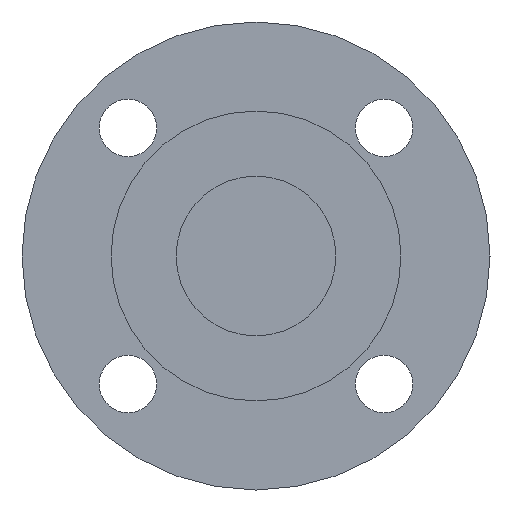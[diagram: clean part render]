
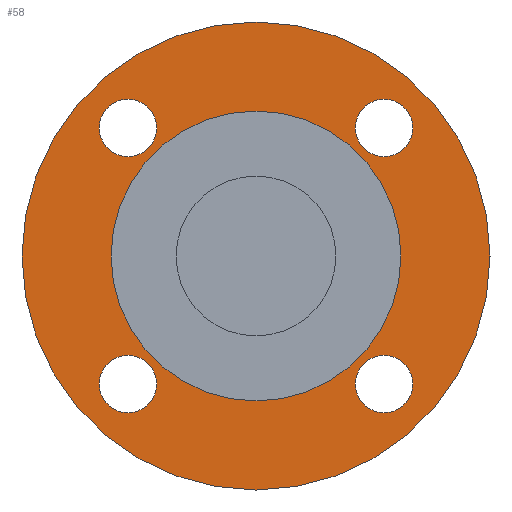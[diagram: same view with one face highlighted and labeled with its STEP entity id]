
A CAD part, left-side view. The second image highlights one B-rep face of the part: STEP entity #58.
In plain terms, the highlighted planar face has unit normal (-1, 0, 0).
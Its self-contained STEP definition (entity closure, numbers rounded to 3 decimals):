
#58=ADVANCED_FACE('',(#287,#288,#289,#290,#291,#292),#286,.T.);
#286=PLANE('',#825);
#287=FACE_OUTER_BOUND('',#826,.T.);
#288=FACE_BOUND('',#827,.T.);
#289=FACE_BOUND('',#828,.T.);
#290=FACE_BOUND('',#829,.T.);
#291=FACE_BOUND('',#830,.T.);
#292=FACE_BOUND('',#831,.T.);
#822=CARTESIAN_POINT('',(1.,-144.234,-165.));
#823=DIRECTION('',(-1.,0.,0.));
#824=DIRECTION('',(0.,0.,1.));
#825=AXIS2_PLACEMENT_3D('',#822,#823,#824);
#826=EDGE_LOOP('',(#1139,#1140));
#827=EDGE_LOOP('',(#1141,#1142));
#828=EDGE_LOOP('',(#1143,#1144));
#829=EDGE_LOOP('',(#1145,#1146));
#830=EDGE_LOOP('',(#1147,#1148));
#831=EDGE_LOOP('',(#1149,#1150));
#1139=ORIENTED_EDGE('',*,*,#1403,.T.);
#1140=ORIENTED_EDGE('',*,*,#1404,.T.);
#1141=ORIENTED_EDGE('',*,*,#1405,.F.);
#1142=ORIENTED_EDGE('',*,*,#1406,.F.);
#1143=ORIENTED_EDGE('',*,*,#1407,.F.);
#1144=ORIENTED_EDGE('',*,*,#1408,.F.);
#1145=ORIENTED_EDGE('',*,*,#1409,.F.);
#1146=ORIENTED_EDGE('',*,*,#1410,.F.);
#1147=ORIENTED_EDGE('',*,*,#1411,.F.);
#1148=ORIENTED_EDGE('',*,*,#1412,.F.);
#1149=ORIENTED_EDGE('',*,*,#1413,.F.);
#1150=ORIENTED_EDGE('',*,*,#1414,.F.);
#1403=EDGE_CURVE('',#1889,#1890,#1891,.T.);
#1404=EDGE_CURVE('',#1890,#1889,#1897,.T.);
#1405=EDGE_CURVE('',#1903,#1904,#1905,.T.);
#1406=EDGE_CURVE('',#1904,#1903,#1911,.T.);
#1407=EDGE_CURVE('',#1917,#1918,#1919,.T.);
#1408=EDGE_CURVE('',#1918,#1917,#1925,.T.);
#1409=EDGE_CURVE('',#1931,#1932,#1933,.T.);
#1410=EDGE_CURVE('',#1932,#1931,#1939,.T.);
#1411=EDGE_CURVE('',#1945,#1946,#1947,.T.);
#1412=EDGE_CURVE('',#1946,#1945,#1953,.T.);
#1413=EDGE_CURVE('',#1959,#1960,#1961,.T.);
#1414=EDGE_CURVE('',#1960,#1959,#1967,.T.);
#1889=VERTEX_POINT('',#2709);
#1890=VERTEX_POINT('',#2710);
#1891=CIRCLE('',#2714,77.5);
#1897=CIRCLE('',#2718,77.5);
#1903=VERTEX_POINT('',#2719);
#1904=VERTEX_POINT('',#2720);
#1905=CIRCLE('',#2724,9.5);
#1911=CIRCLE('',#2728,9.5);
#1917=VERTEX_POINT('',#2729);
#1918=VERTEX_POINT('',#2730);
#1919=CIRCLE('',#2734,9.5);
#1925=CIRCLE('',#2738,9.5);
#1931=VERTEX_POINT('',#2739);
#1932=VERTEX_POINT('',#2740);
#1933=CIRCLE('',#2744,9.5);
#1939=CIRCLE('',#2748,9.5);
#1945=VERTEX_POINT('',#2749);
#1946=VERTEX_POINT('',#2750);
#1947=CIRCLE('',#2754,48.);
#1953=CIRCLE('',#2758,48.);
#1959=VERTEX_POINT('',#2759);
#1960=VERTEX_POINT('',#2760);
#1961=CIRCLE('',#2764,9.5);
#1967=CIRCLE('',#2768,9.5);
#2709=CARTESIAN_POINT('',(1.,0.,77.5));
#2710=CARTESIAN_POINT('',(1.,0.,-77.5));
#2711=CARTESIAN_POINT('',(1.,0.,0.));
#2712=DIRECTION('',(-1.,0.,0.));
#2713=DIRECTION('',(0.,0.,1.));
#2714=AXIS2_PLACEMENT_3D('',#2711,#2712,#2713);
#2715=CARTESIAN_POINT('',(1.,0.,0.));
#2716=DIRECTION('',(-1.,0.,0.));
#2717=DIRECTION('',(0.,0.,1.));
#2718=AXIS2_PLACEMENT_3D('',#2715,#2716,#2717);
#2719=CARTESIAN_POINT('',(1.,42.426,51.926));
#2720=CARTESIAN_POINT('',(1.,42.426,32.926));
#2721=CARTESIAN_POINT('',(1.,42.426,42.426));
#2722=DIRECTION('',(-1.,0.,0.));
#2723=DIRECTION('',(0.,0.,-1.));
#2724=AXIS2_PLACEMENT_3D('',#2721,#2722,#2723);
#2725=CARTESIAN_POINT('',(1.,42.426,42.426));
#2726=DIRECTION('',(-1.,0.,0.));
#2727=DIRECTION('',(0.,0.,-1.));
#2728=AXIS2_PLACEMENT_3D('',#2725,#2726,#2727);
#2729=CARTESIAN_POINT('',(1.,42.426,-32.926));
#2730=CARTESIAN_POINT('',(1.,42.426,-51.926));
#2731=CARTESIAN_POINT('',(1.,42.426,-42.426));
#2732=DIRECTION('',(-1.,0.,0.));
#2733=DIRECTION('',(0.,0.,-1.));
#2734=AXIS2_PLACEMENT_3D('',#2731,#2732,#2733);
#2735=CARTESIAN_POINT('',(1.,42.426,-42.426));
#2736=DIRECTION('',(-1.,0.,0.));
#2737=DIRECTION('',(0.,0.,-1.));
#2738=AXIS2_PLACEMENT_3D('',#2735,#2736,#2737);
#2739=CARTESIAN_POINT('',(1.,-42.427,-32.926));
#2740=CARTESIAN_POINT('',(1.,-42.427,-51.926));
#2741=CARTESIAN_POINT('',(1.,-42.427,-42.426));
#2742=DIRECTION('',(-1.,0.,0.));
#2743=DIRECTION('',(0.,0.,-1.));
#2744=AXIS2_PLACEMENT_3D('',#2741,#2742,#2743);
#2745=CARTESIAN_POINT('',(1.,-42.427,-42.426));
#2746=DIRECTION('',(-1.,0.,0.));
#2747=DIRECTION('',(0.,0.,-1.));
#2748=AXIS2_PLACEMENT_3D('',#2745,#2746,#2747);
#2749=CARTESIAN_POINT('',(1.,0.,-48.));
#2750=CARTESIAN_POINT('',(1.,0.,48.));
#2751=CARTESIAN_POINT('',(1.,0.,0.));
#2752=DIRECTION('',(-1.,0.,0.));
#2753=DIRECTION('',(0.,0.,1.));
#2754=AXIS2_PLACEMENT_3D('',#2751,#2752,#2753);
#2755=CARTESIAN_POINT('',(1.,0.,0.));
#2756=DIRECTION('',(-1.,0.,0.));
#2757=DIRECTION('',(0.,0.,1.));
#2758=AXIS2_PLACEMENT_3D('',#2755,#2756,#2757);
#2759=CARTESIAN_POINT('',(1.,-42.427,51.926));
#2760=CARTESIAN_POINT('',(1.,-42.427,32.926));
#2761=CARTESIAN_POINT('',(1.,-42.427,42.426));
#2762=DIRECTION('',(-1.,0.,0.));
#2763=DIRECTION('',(0.,0.,-1.));
#2764=AXIS2_PLACEMENT_3D('',#2761,#2762,#2763);
#2765=CARTESIAN_POINT('',(1.,-42.427,42.426));
#2766=DIRECTION('',(-1.,0.,0.));
#2767=DIRECTION('',(0.,0.,-1.));
#2768=AXIS2_PLACEMENT_3D('',#2765,#2766,#2767);
